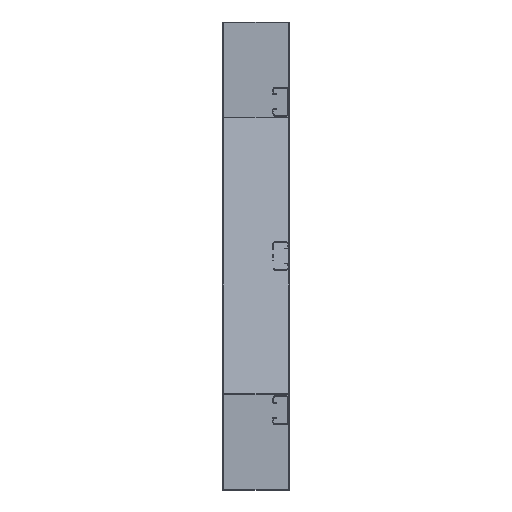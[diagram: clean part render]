
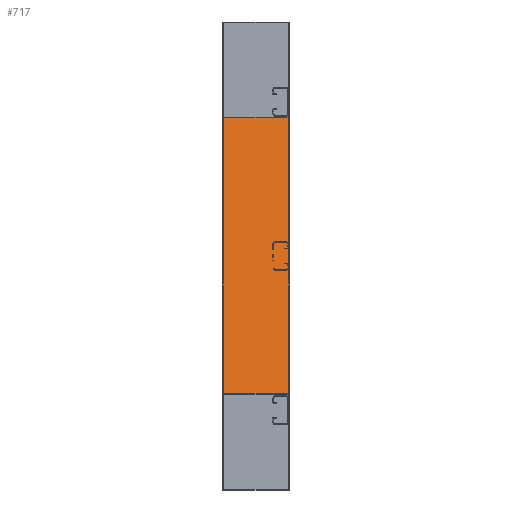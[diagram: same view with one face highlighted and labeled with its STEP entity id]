
A CAD part, left-side view. The second image highlights one B-rep face of the part: STEP entity #717.
In plain terms, the highlighted planar face has unit normal (-0.5, 0, 0.866).
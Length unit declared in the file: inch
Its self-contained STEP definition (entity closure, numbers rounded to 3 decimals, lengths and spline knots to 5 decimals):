
#101=DIRECTION('',(-0.866,0.,-0.5));
#102=VECTOR('',#101,34.64102);
#103=CARTESIAN_POINT('',(-0.075,4.11,-5.9567));
#104=LINE('',#103,#102);
#137=DIRECTION('',(-0.866,0.,-0.5));
#138=VECTOR('',#137,34.64102);
#139=CARTESIAN_POINT('',(-0.075,0.08,-5.9567));
#140=LINE('',#139,#138);
#141=DIRECTION('',(0.,1.,0.));
#142=VECTOR('',#141,4.03);
#143=CARTESIAN_POINT('',(-0.075,0.08,-5.9567));
#144=LINE('',#143,#142);
#149=DIRECTION('',(0.,1.,0.));
#150=VECTOR('',#149,4.03);
#151=CARTESIAN_POINT('',(-30.075,0.08,-23.27721));
#152=LINE('',#151,#150);
#417=CARTESIAN_POINT('',(-0.075,0.08,-5.9567));
#418=CARTESIAN_POINT('',(-0.075,4.11,-5.9567));
#419=VERTEX_POINT('',#417);
#420=VERTEX_POINT('',#418);
#437=CARTESIAN_POINT('',(-30.075,0.08,-23.27721));
#438=CARTESIAN_POINT('',(-30.075,4.11,-23.27721));
#439=VERTEX_POINT('',#437);
#440=VERTEX_POINT('',#438);
#705=CARTESIAN_POINT('',(-0.0375,0.08,-5.93505));
#706=DIRECTION('',(-0.5,0.,0.866));
#707=DIRECTION('',(0.,1.,0.));
#708=AXIS2_PLACEMENT_3D('',#705,#706,#707);
#709=PLANE('',#708);
#710=ORIENTED_EDGE('',*,*,#678,.T.);
#712=ORIENTED_EDGE('',*,*,#711,.T.);
#713=ORIENTED_EDGE('',*,*,#637,.F.);
#714=ORIENTED_EDGE('',*,*,#666,.F.);
#715=EDGE_LOOP('',(#710,#712,#713,#714));
#716=FACE_OUTER_BOUND('',#715,.F.);
#717=ADVANCED_FACE('',(#716),#709,.T.);
#637=EDGE_CURVE('',#420,#440,#104,.T.);
#666=EDGE_CURVE('',#419,#420,#144,.T.);
#678=EDGE_CURVE('',#419,#439,#140,.T.);
#711=EDGE_CURVE('',#439,#440,#152,.T.);
